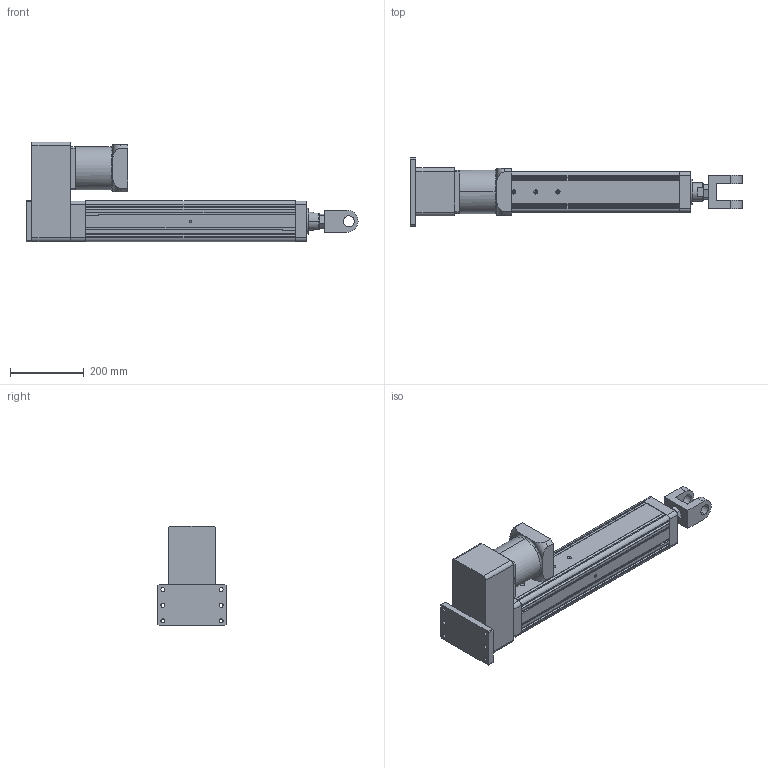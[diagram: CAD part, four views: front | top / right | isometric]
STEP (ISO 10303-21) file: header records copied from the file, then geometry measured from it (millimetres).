
FILE_DESCRIPTION (( 'STEP AP203' ), '1' );
FILE_NAME ('YRJ110-L400-H4K4.STEP', '2020-01-06T01:44:09', ( 'User' ), ( 'China' ), 'SwSTEP 2.0', 'SolidWorks 2016', '' );
FILE_SCHEMA (( 'CONFIG_CONTROL_DESIGN' ));
Length unit declared in the file: millimetre
Products named in the file (8): YRJ110-L400-H4K4; 095-100俴最倰第; H5-110-1; 萇儂碟-110; K4-110; H3-110-2; H4-110; 120遺1500W珨撰熬厒儂
Assembly tree (7 placements, depth 2):
  YRJ110-L400-H4K4
    095-100俴最倰第
    H5-110-1
    萇儂碟-110
    K4-110
    H3-110-2
    H4-110
    120遺1500W珨撰熬厒儂
Bounding box: 902 x 185 x 271 mm (x, y, z)
Volume: 9313492.5 mm3; surface area: 952576.5 mm2
Topology: 7 solids, 7 shells, 340 faces, 919 edges, 589 vertices
Faces by surface type: plane 174, cylinder 128, cone 29, torus 5, bspline 4
Entity records: 11853 total; most frequent: CARTESIAN_POINT 2306, DIRECTION 1845, ORIENTED_EDGE 1806, EDGE_CURVE 903, AXIS2_PLACEMENT_3D 634, VERTEX_POINT 589, VECTOR 577, LINE 577
